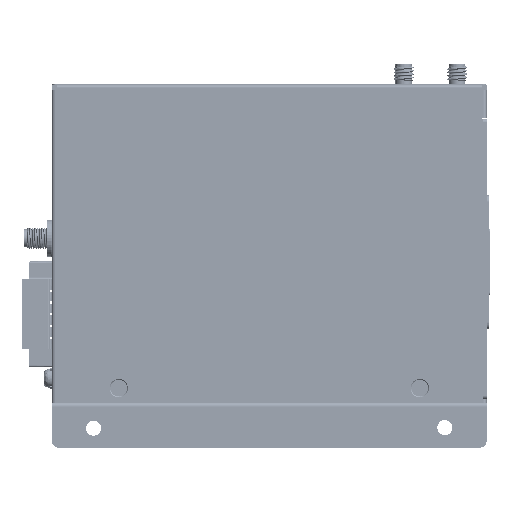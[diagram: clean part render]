
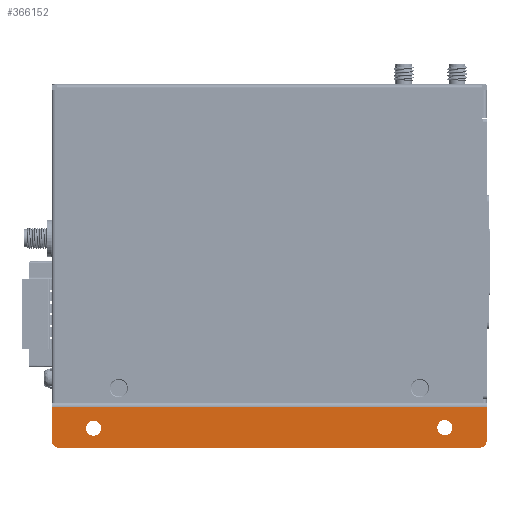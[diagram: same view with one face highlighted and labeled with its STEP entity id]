
A CAD part, left-side view. The second image highlights one B-rep face of the part: STEP entity #366152.
In plain terms, the highlighted planar face has unit normal (-1, 0, 0) as drawn and (0, -1, 0) by its records, which use the part's own axes.
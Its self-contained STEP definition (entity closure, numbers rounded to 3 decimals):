
#6945 = VERTEX_POINT ( 'NONE', #133598 ) ;
#10197 = FACE_OUTER_BOUND ( 'NONE', #528676, .T. ) ;
#14819 = EDGE_CURVE ( 'NONE', #557798, #359526, #242504, .T. ) ;
#49405 = CARTESIAN_POINT ( 'NONE',  ( 1.2, 0., 65. ) ) ;
#50888 = CARTESIAN_POINT ( 'NONE',  ( 9.933, 0., -52.5 ) ) ;
#55359 = CIRCLE ( 'NONE', #335707, 2. ) ;
#63736 = DIRECTION ( 'NONE',  ( 0., 1., 0. ) ) ;
#67403 = VECTOR ( 'NONE', #407870, 1000. ) ;
#79905 = DIRECTION ( 'NONE',  ( 0., -1., 0. ) ) ;
#85789 = VERTEX_POINT ( 'NONE', #537199 ) ;
#85865 = CARTESIAN_POINT ( 'NONE',  ( 13.5, 0., 63. ) ) ;
#96829 = CARTESIAN_POINT ( 'NONE',  ( 9.75, 0., 52.5 ) ) ;
#102568 = EDGE_CURVE ( 'NONE', #210625, #557798, #746981, .T. ) ;
#105397 = CARTESIAN_POINT ( 'NONE',  ( 13.5, 0., 65. ) ) ;
#120126 = CIRCLE ( 'NONE', #315345, 2.25 ) ;
#133598 = CARTESIAN_POINT ( 'NONE',  ( 13.5, 0., -63. ) ) ;
#142423 = DIRECTION ( 'NONE',  ( 1., 0., 0. ) ) ;
#158939 = DIRECTION ( 'NONE',  ( -1., 0., 0. ) ) ;
#174832 = CARTESIAN_POINT ( 'NONE',  ( 13.5, 0., -65. ) ) ;
#199620 = DIRECTION ( 'NONE',  ( 0., -1., 0. ) ) ;
#209362 = ORIENTED_EDGE ( 'NONE', *, *, #489668, .F. ) ;
#210625 = VERTEX_POINT ( 'NONE', #319714 ) ;
#217641 = CARTESIAN_POINT ( 'NONE',  ( 11.5, 0., 63. ) ) ;
#221374 = DIRECTION ( 'NONE',  ( -1., 0., 0. ) ) ;
#242504 = LINE ( 'NONE', #407001, #574059 ) ;
#243157 = PLANE ( 'NONE',  #586141 ) ;
#264772 = EDGE_CURVE ( 'NONE', #670370, #85789, #647700, .T. ) ;
#266484 = ORIENTED_EDGE ( 'NONE', *, *, #300301, .T. ) ;
#274579 = DIRECTION ( 'NONE',  ( 0., -1., 0. ) ) ;
#276734 = VERTEX_POINT ( 'NONE', #421111 ) ;
#284980 = EDGE_LOOP ( 'NONE', ( #751715, #361266 ) ) ;
#289630 = CARTESIAN_POINT ( 'NONE',  ( 7.5, 0., 52.5 ) ) ;
#299266 = ORIENTED_EDGE ( 'NONE', *, *, #668540, .T. ) ;
#300301 = EDGE_CURVE ( 'NONE', #276734, #6945, #55359, .T. ) ;
#308174 = DIRECTION ( 'NONE',  ( 1., 0., 0. ) ) ;
#315345 = AXIS2_PLACEMENT_3D ( 'NONE', #419180, #369155, #308174 ) ;
#319714 = CARTESIAN_POINT ( 'NONE',  ( 11.5, 0., 65. ) ) ;
#335707 = AXIS2_PLACEMENT_3D ( 'NONE', #435949, #378366, #554316 ) ;
#350327 = FACE_BOUND ( 'NONE', #368776, .T. ) ;
#354067 = CARTESIAN_POINT ( 'NONE',  ( 13.5, 0., -65. ) ) ;
#359526 = VERTEX_POINT ( 'NONE', #618251 ) ;
#361266 = ORIENTED_EDGE ( 'NONE', *, *, #626327, .F. ) ;
#364925 = CIRCLE ( 'NONE', #401912, 2. ) ;
#366152 = ADVANCED_FACE ( 'NONE', ( #598573, #350327, #10197 ), #243157, .F. ) ;
#368776 = EDGE_LOOP ( 'NONE', ( #630759, #715289 ) ) ;
#369155 = DIRECTION ( 'NONE',  ( 0., -1., 0. ) ) ;
#372434 = VERTEX_POINT ( 'NONE', #50888 ) ;
#377005 = ORIENTED_EDGE ( 'NONE', *, *, #14819, .T. ) ;
#378366 = DIRECTION ( 'NONE',  ( 0., -1., 0. ) ) ;
#392869 = DIRECTION ( 'NONE',  ( 1., 0., 0. ) ) ;
#395504 = CIRCLE ( 'NONE', #590968, 2.25 ) ;
#401912 = AXIS2_PLACEMENT_3D ( 'NONE', #217641, #504493, #221374 ) ;
#407001 = CARTESIAN_POINT ( 'NONE',  ( 1.2, 0., -65. ) ) ;
#407870 = DIRECTION ( 'NONE',  ( -1., 0., 0. ) ) ;
#416071 = AXIS2_PLACEMENT_3D ( 'NONE', #516012, #79905, #664279 ) ;
#419180 = CARTESIAN_POINT ( 'NONE',  ( 7.683, 0., -52.5 ) ) ;
#421111 = CARTESIAN_POINT ( 'NONE',  ( 11.5, 0., -65. ) ) ;
#429107 = CARTESIAN_POINT ( 'NONE',  ( 7.683, 0., -52.5 ) ) ;
#435949 = CARTESIAN_POINT ( 'NONE',  ( 11.5, 0., -63. ) ) ;
#465278 = CARTESIAN_POINT ( 'NONE',  ( 13.5, 0., -65. ) ) ;
#489668 = EDGE_CURVE ( 'NONE', #276734, #359526, #705658, .T. ) ;
#490674 = ORIENTED_EDGE ( 'NONE', *, *, #102568, .T. ) ;
#504275 = EDGE_CURVE ( 'NONE', #372434, #603146, #395504, .T. ) ;
#504493 = DIRECTION ( 'NONE',  ( 0., -1., 0. ) ) ;
#506142 = ORIENTED_EDGE ( 'NONE', *, *, #599439, .T. ) ;
#516012 = CARTESIAN_POINT ( 'NONE',  ( 7.5, 0., 52.5 ) ) ;
#528676 = EDGE_LOOP ( 'NONE', ( #209362, #266484, #299266, #506142, #490674, #377005 ) ) ;
#529906 = EDGE_CURVE ( 'NONE', #603146, #372434, #120126, .T. ) ;
#529992 = DIRECTION ( 'NONE',  ( -1., 0., 0. ) ) ;
#537199 = CARTESIAN_POINT ( 'NONE',  ( 5.25, 0., 52.5 ) ) ;
#554316 = DIRECTION ( 'NONE',  ( -1., 0., 0. ) ) ;
#557798 = VERTEX_POINT ( 'NONE', #49405 ) ;
#567528 = CIRCLE ( 'NONE', #604037, 2.25 ) ;
#574059 = VECTOR ( 'NONE', #586580, 1000. ) ;
#579981 = LINE ( 'NONE', #465278, #632314 ) ;
#586141 = AXIS2_PLACEMENT_3D ( 'NONE', #354067, #63736, #529992 ) ;
#586580 = DIRECTION ( 'NONE',  ( 0., 0., -1. ) ) ;
#590968 = AXIS2_PLACEMENT_3D ( 'NONE', #429107, #199620, #142423 ) ;
#598573 = FACE_BOUND ( 'NONE', #284980, .T. ) ;
#599439 = EDGE_CURVE ( 'NONE', #743428, #210625, #364925, .T. ) ;
#603146 = VERTEX_POINT ( 'NONE', #650595 ) ;
#604037 = AXIS2_PLACEMENT_3D ( 'NONE', #289630, #274579, #392869 ) ;
#618251 = CARTESIAN_POINT ( 'NONE',  ( 1.2, 0., -65. ) ) ;
#626327 = EDGE_CURVE ( 'NONE', #85789, #670370, #567528, .T. ) ;
#630759 = ORIENTED_EDGE ( 'NONE', *, *, #504275, .F. ) ;
#632314 = VECTOR ( 'NONE', #633431, 1000. ) ;
#633431 = DIRECTION ( 'NONE',  ( 0., 0., 1. ) ) ;
#647700 = CIRCLE ( 'NONE', #416071, 2.25 ) ;
#650595 = CARTESIAN_POINT ( 'NONE',  ( 5.433, 0., -52.5 ) ) ;
#664279 = DIRECTION ( 'NONE',  ( 1., 0., 0. ) ) ;
#668540 = EDGE_CURVE ( 'NONE', #6945, #743428, #579981, .T. ) ;
#670370 = VERTEX_POINT ( 'NONE', #96829 ) ;
#673626 = VECTOR ( 'NONE', #158939, 1000. ) ;
#705658 = LINE ( 'NONE', #174832, #67403 ) ;
#715289 = ORIENTED_EDGE ( 'NONE', *, *, #529906, .F. ) ;
#743428 = VERTEX_POINT ( 'NONE', #85865 ) ;
#746981 = LINE ( 'NONE', #105397, #673626 ) ;
#751715 = ORIENTED_EDGE ( 'NONE', *, *, #264772, .F. ) ;
